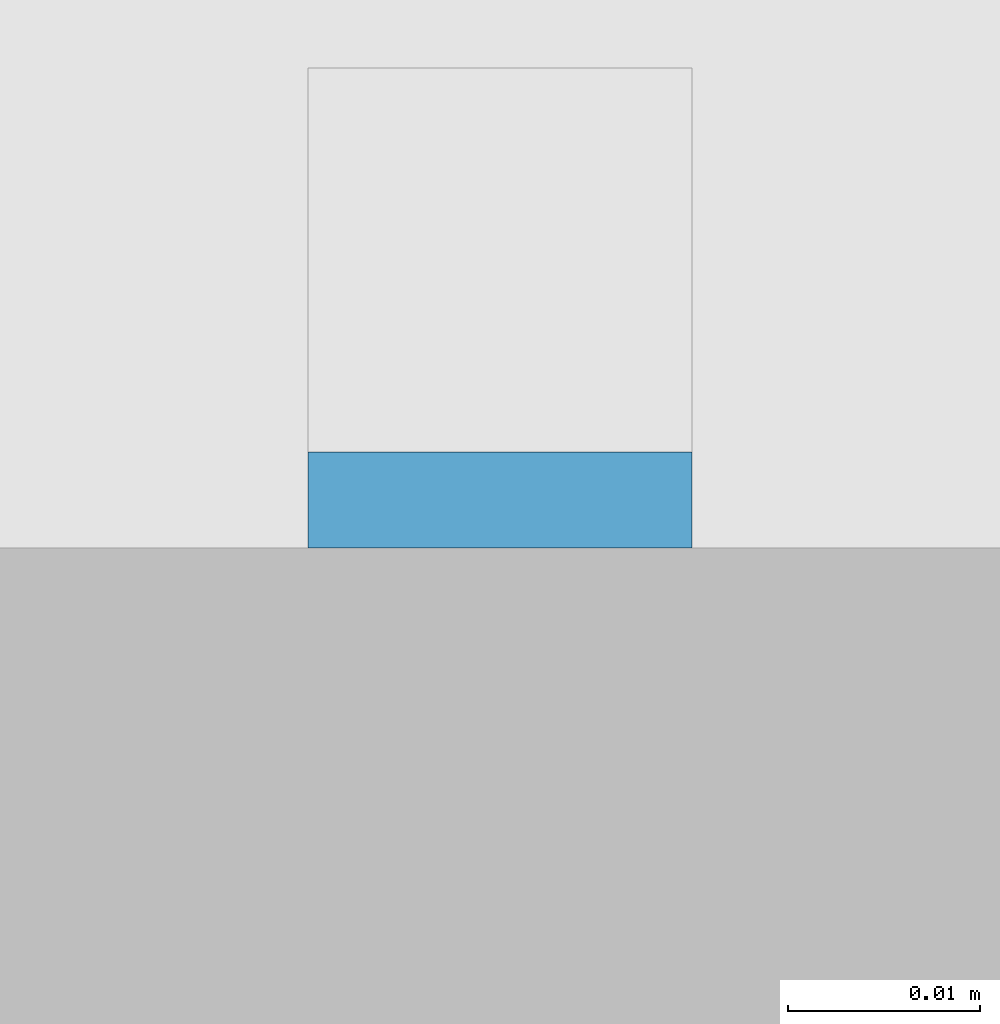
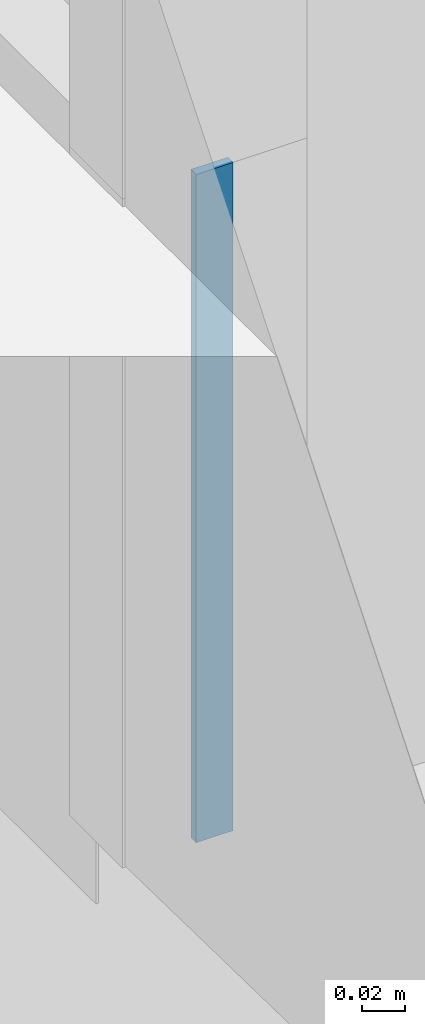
# One storey, part 54 of 117: 1 plate, 1 element without a shape of its own.
"""IFC4 building model written with IfcOpenShell, lengths in metres."""

from ifc_helpers import new_model, entity, si_unit, converted_unit, derived_unit, direction, frame, origin, place, context, subcontext, project, spatial, indexed_curve, outline, extrude, source, transform, mapped, material, type_object, type_shapes, element, aggregate, save


model = new_model("IFC4")

# Units and contexts
model_context = context("Model", 3, precision=1e-05, world=origin(), true_north=direction((6.123031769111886e-17, 1.0)))
body_context = subcontext(model_context, "Body", "Model", "MODEL_VIEW")
ifc_project = project(units=[si_unit("LENGTHUNIT", "METRE"), si_unit("AREAUNIT", "SQUARE_METRE"), si_unit("VOLUMEUNIT", "CUBIC_METRE"), converted_unit("PLANEANGLEUNIT", "DEGREE", entity("IfcRatioMeasure", 0.017453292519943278), si_unit("PLANEANGLEUNIT", "RADIAN"), dimensions=[0, 0, 0, 0, 0, 0, 0]), si_unit("MASSUNIT", "GRAM", prefix="KILO"), derived_unit("MASSDENSITYUNIT", [(si_unit("MASSUNIT", "GRAM", prefix="KILO"), 1), (si_unit("LENGTHUNIT", "METRE"), -3)]), derived_unit("MOMENTOFINERTIAUNIT", [(si_unit("LENGTHUNIT", "METRE"), 4)]), si_unit("TIMEUNIT", "SECOND"), si_unit("FREQUENCYUNIT", "HERTZ"), si_unit("THERMODYNAMICTEMPERATUREUNIT", "DEGREE_CELSIUS"), derived_unit("THERMALTRANSMITTANCEUNIT", [(si_unit("MASSUNIT", "GRAM", prefix="KILO"), 1), (si_unit("THERMODYNAMICTEMPERATUREUNIT", "KELVIN"), -1), (si_unit("TIMEUNIT", "SECOND"), -3)]), derived_unit("VOLUMETRICFLOWRATEUNIT", [(si_unit("LENGTHUNIT", "METRE"), 3), (si_unit("TIMEUNIT", "SECOND"), -1)]), derived_unit("MASSFLOWRATEUNIT", [(si_unit("MASSUNIT", "GRAM", prefix="KILO"), 1), (si_unit("TIMEUNIT", "SECOND"), -1)]), derived_unit("ROTATIONALFREQUENCYUNIT", [(si_unit("TIMEUNIT", "SECOND"), -1)]), si_unit("ELECTRICCURRENTUNIT", "AMPERE"), si_unit("ELECTRICVOLTAGEUNIT", "VOLT"), si_unit("POWERUNIT", "WATT"), si_unit("FORCEUNIT", "NEWTON", prefix="KILO"), si_unit("ILLUMINANCEUNIT", "LUX"), si_unit("LUMINOUSFLUXUNIT", "LUMEN"), si_unit("LUMINOUSINTENSITYUNIT", "CANDELA"), derived_unit("USERDEFINED", [(si_unit("MASSUNIT", "GRAM", prefix="KILO"), -1), (si_unit("LENGTHUNIT", "METRE"), -2), (si_unit("TIMEUNIT", "SECOND"), 3), (si_unit("LUMINOUSFLUXUNIT", "LUMEN"), 1)]), derived_unit("SOUNDPOWERUNIT", [(si_unit("MASSUNIT", "GRAM", prefix="KILO"), 1), (si_unit("LENGTHUNIT", "METRE"), 2), (si_unit("TIMEUNIT", "SECOND"), -3)]), derived_unit("SOUNDPRESSUREUNIT", [(si_unit("MASSUNIT", "GRAM", prefix="KILO"), 1), (si_unit("LENGTHUNIT", "METRE"), -1), (si_unit("TIMEUNIT", "SECOND"), -2)]), derived_unit("LINEARVELOCITYUNIT", [(si_unit("LENGTHUNIT", "METRE"), 1), (si_unit("TIMEUNIT", "SECOND"), -1)]), si_unit("PRESSUREUNIT", "PASCAL"), derived_unit("USERDEFINED", [(si_unit("LENGTHUNIT", "METRE"), -2), (si_unit("MASSUNIT", "GRAM", prefix="KILO"), 1), (si_unit("TIMEUNIT", "SECOND"), -2)]), derived_unit("LINEARFORCEUNIT", [(si_unit("MASSUNIT", "GRAM", prefix="KILO"), 1), (si_unit("LENGTHUNIT", "METRE"), 1), (si_unit("TIMEUNIT", "SECOND"), -2), (si_unit("LENGTHUNIT", "METRE"), -1)]), derived_unit("PLANARFORCEUNIT", [(si_unit("MASSUNIT", "GRAM", prefix="KILO"), 1), (si_unit("LENGTHUNIT", "METRE"), 1), (si_unit("TIMEUNIT", "SECOND"), -2), (si_unit("LENGTHUNIT", "METRE"), -2)])], contexts=[model_context])

# Site, building, storey
site_placement = place(None, origin())
site = spatial("IfcSite", under=ifc_project, at=site_placement, Name="Superficie", CompositionType="ELEMENT")
building_placement = place(site_placement, origin())
building = spatial("IfcBuilding", under=site, at=building_placement, CompositionType="ELEMENT")
storey_placement = place(building_placement, origin())
storey = spatial("IfcBuildingStorey", under=building, at=storey_placement, Name="Nivel 0", CompositionType="ELEMENT", Elevation=0.0)

# Curtain wall, plate
curtain_wall_type = type_object("IfcCurtainWallType", Name="Muro cortina:Muro cortina - simple", PredefinedType="NOTDEFINED")
curtain_wall_placement = place(storey_placement, origin())
curtain_wall = element("IfcCurtainWall", 1, at=curtain_wall_placement, inside=storey, type_object=curtain_wall_type, Name="Muro cortina:Muro cortina - simple", ObjectType="Muro cortina:Muro cortina - simple", PredefinedType="NOTDEFINED")
ifc_material = material(Name="Cristal", Category="Vidrio")
plate_type = type_object("IfcPlateType", Name="Panel de sistema:Acristalado", PredefinedType="CURTAIN_PANEL", material=ifc_material)
shared_shape = source(origin(), body_context, "Body", "SweptSolid", [
    extrude(outline(indexed_curve([(-0.006313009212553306, -0.19167182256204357), (-0.0013120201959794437, -0.19167182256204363), (0.006312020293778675, 0.19162210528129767), (0.0013130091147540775, 0.19172153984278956), (-0.006313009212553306, -0.19167182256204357)], self_intersect=False)), frame((0.0, -0.010000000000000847, 0.19175946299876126), z_axis=(0.0, 1.0, 0.0), x_axis=(-0.9998022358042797, 0.0, 0.019886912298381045)), (0.0, 0.0, 1.0), 0.019999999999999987),
])
type_shapes(plate_type, [shared_shape])
plate_placement = place(curtain_wall_placement, frame((12.840568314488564, 10.768329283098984, -0.37958952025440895), z_axis=(0.0, 0.0, 1.0), x_axis=(0.0, 1.0, 0.0)))
plate = element("IfcPlate", 2, at=plate_placement, type_object=plate_type, material=ifc_material, Name="Panel de sistema:Acristalado", ObjectType="Panel de sistema:Acristalado", PredefinedType="CURTAIN_PANEL", context=body_context, shape_type="MappedRepresentation", body=[
    mapped(shared_shape, transform((0.0, 0.0, 0.0), scale=1.0)),
])
aggregate(curtain_wall, [plate])

save(model, "model.ifc")
